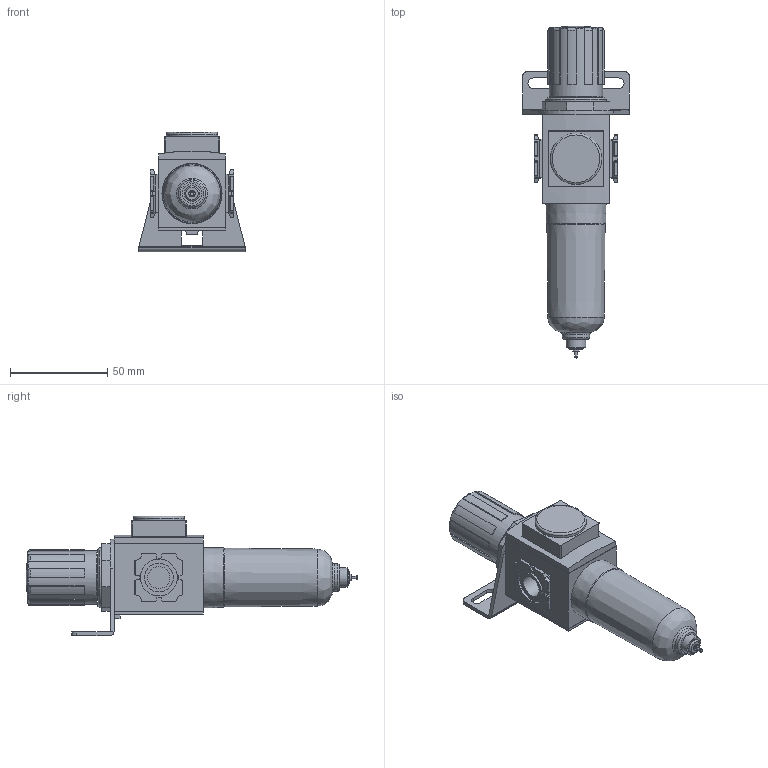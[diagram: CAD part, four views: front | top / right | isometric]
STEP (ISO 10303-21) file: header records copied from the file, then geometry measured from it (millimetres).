
FILE_DESCRIPTION( ( 'STEP AP214' ), '1' );
FILE_NAME( 'C:/Users/emc03072/Desktop/EAW/EAW2000-02F1.stp', '2026-08-14T15:53:35', ( 'License CC BY-ND 4.0' ), ( 'CADENAS' ), ' ', 'PARTsolutions', ' ' );
FILE_SCHEMA( ( 'AUTOMOTIVE_DESIGN { 1 0 10303 214 1 1 1 1 }' ) );
Length unit declared in the file: millimetre
Products named in the file (2): EAW2000-02F1; _EAW2000-02F1-body
Assembly tree (1 placements, depth 2):
  EAW2000-02F1
    _EAW2000-02F1-body
Bounding box: 55 x 171.09 x 61.6 mm (x, y, z)
Volume: 154357.4 mm3; surface area: 28248.5 mm2
Topology: 1 solids, 1 shells, 346 faces, 936 edges, 614 vertices
Faces by surface type: plane 276, cylinder 54, cone 7, torus 6, bspline 2, sphere 1
Full cylindrical faces by diameter (mm): 1.1 x1, 1.8 x1, 3.372 x1, 8 x1, 10 x1, 11.445 x2, 14.8 x2, 19 x2, 23.7 x1, 26.5 x1, 27.64 x1, 31 x1
Entity records: 13471 total; most frequent: CARTESIAN_POINT 1916, ORIENTED_EDGE 1804, DIRECTION 1779, EDGE_CURVE 902, LINE 717, VECTOR 717, VERTEX_POINT 612, AXIS2_PLACEMENT_3D 531
